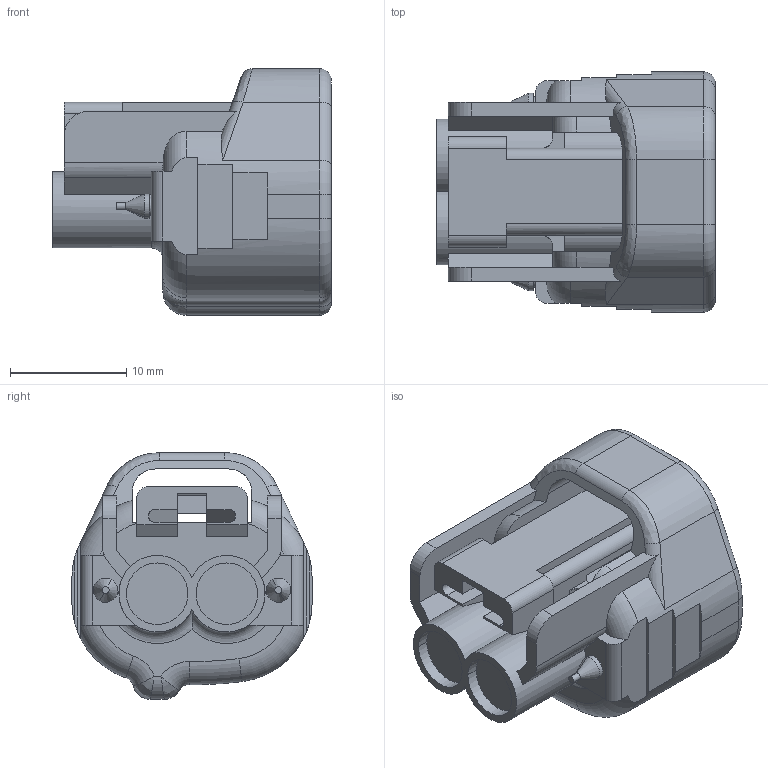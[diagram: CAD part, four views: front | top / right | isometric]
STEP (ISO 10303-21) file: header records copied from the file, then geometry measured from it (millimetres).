
FILE_DESCRIPTION(('CATIA V5 STEP Exchange'),'2;1');
FILE_NAME('N:\C-DAM_MyDesk\ENV\900093\6189-0264.stp','2013-07-25T00:31:54+00:00',('none'),('none'),'CATIA Version 5 Release 20 SP 4 (IN-10)','CATIA V5 STEP AP203','none');
FILE_SCHEMA(('CONFIG_CONTROL_DESIGN'));
Length unit declared in the file: millimetre
Products named in the file (1): 6189-0264
Bounding box: 24 x 20.7 x 21.25 mm (x, y, z)
Volume: 3446.9 mm3; surface area: 3826.2 mm2
Topology: 1 solids, 1 shells, 205 faces, 558 edges, 359 vertices
Faces by surface type: plane 101, cylinder 71, torus 21, bspline 6, cone 4, revolution 2
Entity records: 6801 total; most frequent: CARTESIAN_POINT 1884, ORIENTED_EDGE 1112, DIRECTION 820, EDGE_CURVE 556, VERTEX_POINT 359, AXIS2_PLACEMENT_3D 340, VECTOR 318, LINE 318
